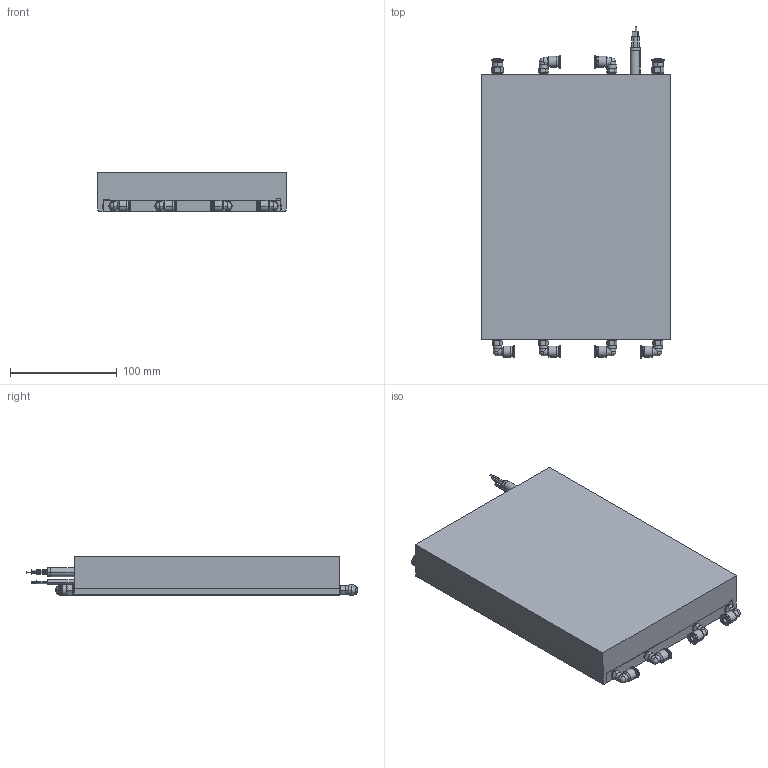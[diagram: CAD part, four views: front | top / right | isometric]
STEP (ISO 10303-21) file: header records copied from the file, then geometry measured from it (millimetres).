
FILE_DESCRIPTION (( 'STEP AP203' ), '1' );
FILE_NAME ('IC177WC-12 3D.STEP', '2021-12-10T06:25:29', ( '' ), ( '' ), 'SwSTEP 2.0', 'SolidWorks 2021', '' );
FILE_SCHEMA (( 'CONFIG_CONTROL_DESIGN' ));
Length unit declared in the file: millimetre
Products named in the file (1): IC177WC-12 3D
Bounding box: 177.15 x 310.4 x 37 mm (x, y, z)
Volume: 1619583 mm3; surface area: 267384.7 mm2
Topology: 19 solids, 19 shells, 1152 faces, 2795 edges, 1704 vertices
Faces by surface type: cylinder 419, plane 411, cone 234, torus 58, sphere 30
Entity records: 34576 total; most frequent: CARTESIAN_POINT 7334, DIRECTION 5869, ORIENTED_EDGE 5530, EDGE_CURVE 2765, AXIS2_PLACEMENT_3D 2251, VERTEX_POINT 1704, LINE 1367, VECTOR 1367
